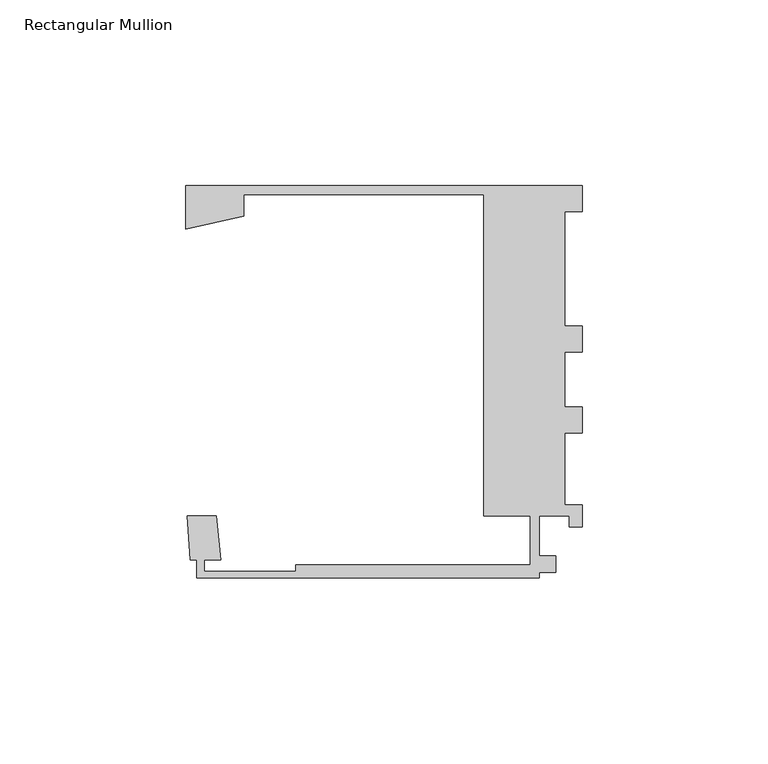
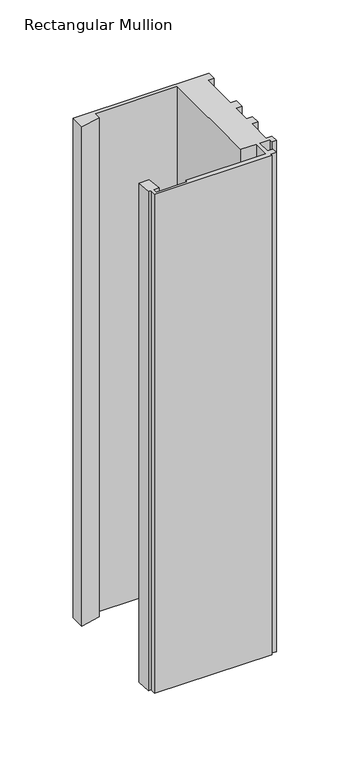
"""IFC4 building model written with IfcOpenShell, lengths in millimetres: member geometry, Rectangular Mullion : Danpal_Airpt_End-Mullion_B1."""

import ifcopenshell
import ifcopenshell.guid

model = None  # the IFC model being written
_history = None  # IfcOwnerHistory: only IFC2X3 demands one
_inside = {}  # id of a spatial element -> (the spatial element, [elements in it])
_under = {}  # id of a project, library or spatial element -> (it, [spatial elements below it])
_declared = {}  # id of a project -> (the project, [libraries it declares])
_typed = {}  # id of a type object -> (the type object, [elements of that type])
_made_of = {}  # id of a material, layer set ... -> (it, [elements and type objects made of it])


def new_model(schema):
    """Start an empty IFC model of exactly this schema.

    Asked for "IFC4X3", IfcOpenShell would pick the latest addendum, in which some entities
    have other attributes; the version numbers below select the first issue.
    IFC2X3 requires an IfcOwnerHistory on every rooted entity: one is made here for all.
    """
    global model, _history
    if schema == "IFC4X3":
        model = ifcopenshell.file(schema_version=(4, 3, 0, 0))
    else:
        model = ifcopenshell.file(schema=schema)
    _inside.clear()
    _under.clear()
    _declared.clear()
    _typed.clear()
    _made_of.clear()
    _history = None
    if model.schema == "IFC2X3":
        org = make("IfcOrganization", Name="unknown")
        user = make(
            "IfcPersonAndOrganization",
            ThePerson=make("IfcPerson", FamilyName="unknown"),
            TheOrganization=org,
        )
        app = make(
            "IfcApplication",
            ApplicationDeveloper=org,
            Version="unknown",
            ApplicationFullName="unknown",
            ApplicationIdentifier="unknown",
        )
        _history = make(
            "IfcOwnerHistory",
            OwningUser=user,
            OwningApplication=app,
            ChangeAction="ADDED",
            CreationDate=0,
        )
    return model


def make(cls, **values):
    """One entity of the class cls with the attributes given. An attribute that is None is left unset."""
    return model.create_entity(
        cls, **{name: value for name, value in values.items() if value is not None}
    )


def rooted(cls, **values):
    """An entity with a GlobalId (a new one), such as an element, a storey or a relation."""
    return make(cls, GlobalId=ifcopenshell.guid.new(), OwnerHistory=_history, **values)


def si_unit(unit_type, name, prefix=None):
    """IfcSIUnit, for example si_unit("LENGTHUNIT", "METRE", prefix="MILLI")."""
    return make("IfcSIUnit", UnitType=unit_type, Prefix=prefix, Name=name)


def assignment(units):
    """IfcUnitAssignment: the units of a project."""
    return None if units is None else make("IfcUnitAssignment", Units=units)


def point(xyz):
    """IfcCartesianPoint."""
    return None if xyz is None else make("IfcCartesianPoint", Coordinates=xyz)


def direction(xyz):
    """IfcDirection."""
    return None if xyz is None else make("IfcDirection", DirectionRatios=xyz)


def frame(location, z_axis=None, x_axis=None):
    """IfcAxis2Placement3D, a coordinate frame: its origin and axes. An axis left out is left unset."""
    return make(
        "IfcAxis2Placement3D",
        Location=point(location),
        Axis=direction(z_axis),
        RefDirection=direction(x_axis),
    )


def origin():
    """The frame at (0, 0, 0) with its axes left unset."""
    return frame((0.0, 0.0, 0.0))


def place(relative_to, where):
    """IfcLocalPlacement: puts the frame where relative to a parent placement (None: the world)."""
    return make(
        "IfcLocalPlacement", PlacementRelTo=relative_to, RelativePlacement=where
    )


def context(
    kind, dimensions, precision=None, world=None, true_north=None, identifier=None
):
    """IfcGeometricRepresentationContext, for example the 3D "Model" context."""
    return make(
        "IfcGeometricRepresentationContext",
        ContextIdentifier=identifier,
        ContextType=kind,
        CoordinateSpaceDimension=dimensions,
        Precision=precision,
        WorldCoordinateSystem=world,
        TrueNorth=true_north,
    )


def project(units=None, contexts=None):
    """IfcProject with its units and contexts."""
    return rooted(
        "IfcProject",
        Name="project",
        RepresentationContexts=contexts,
        UnitsInContext=assignment(units),
    )


def spatial(cls, under=None, at=None, **own):
    """A site, building, storey or space (cls), placed at a placement, below another one or the project."""
    s = rooted(cls, ObjectPlacement=at, **own)
    if under is not None:
        _under.setdefault(under.id(), (under, []))[1].append(s)
    return s


def polyline(points):
    """IfcPolyline through the points."""
    return make("IfcPolyline", Points=[point(p) for p in points])


def outline(outer, holes=None, kind="AREA"):
    """IfcArbitraryClosedProfileDef: a profile drawn as a closed curve; with holes, ...WithVoids."""
    if holes is None:
        return make("IfcArbitraryClosedProfileDef", ProfileType=kind, OuterCurve=outer)
    return make(
        "IfcArbitraryProfileDefWithVoids",
        ProfileType=kind,
        OuterCurve=outer,
        InnerCurves=holes,
    )


def extrude(swept, where, along, depth):
    """IfcExtrudedAreaSolid: the profile swept, set in the frame where, extruded along a direction by depth."""
    return make(
        "IfcExtrudedAreaSolid",
        SweptArea=swept,
        Position=where,
        ExtrudedDirection=direction(along),
        Depth=depth,
    )


def shape(context_of_items, identifier, shape_type, items):
    """IfcShapeRepresentation: the items that make up one representation, for example the "Body"."""
    return make(
        "IfcShapeRepresentation",
        ContextOfItems=context_of_items,
        RepresentationIdentifier=identifier,
        RepresentationType=shape_type,
        Items=items,
    )


def source(mapping_origin, context_of_items, identifier, shape_type, items):
    """IfcRepresentationMap: a shape defined once, which mapped items show again and again."""
    return make(
        "IfcRepresentationMap",
        MappingOrigin=mapping_origin,
        MappedRepresentation=shape(context_of_items, identifier, shape_type, items),
    )


def transform(
    local_origin,
    x_axis=None,
    y_axis=None,
    z_axis=None,
    scale=None,
    scale2=None,
    scale3=None,
    uniform=True,
):
    """IfcCartesianTransformationOperator3D, or its non-uniform kind. x_axis, y_axis, z_axis: its Axis1, 2, 3."""
    if uniform:
        return make(
            "IfcCartesianTransformationOperator3D",
            Axis1=direction(x_axis),
            Axis2=direction(y_axis),
            LocalOrigin=point(local_origin),
            Scale=scale,
            Axis3=direction(z_axis),
        )
    return make(
        "IfcCartesianTransformationOperator3DnonUniform",
        Axis1=direction(x_axis),
        Axis2=direction(y_axis),
        LocalOrigin=point(local_origin),
        Scale=scale,
        Axis3=direction(z_axis),
        Scale2=scale2,
        Scale3=scale3,
    )


def mapped(mapping_source, mapping_target):
    """IfcMappedItem: shows the shape of a source again, moved by a transform."""
    return make(
        "IfcMappedItem", MappingSource=mapping_source, MappingTarget=mapping_target
    )


def made_of(thing, what):
    """Note that an element or type object is made of a material, layer set ...; save() writes the relation."""
    if what is not None:
        _made_of.setdefault(what.id(), (what, []))[1].append(thing)
    return thing


def element(
    cls,
    number,
    at=None,
    inside=None,
    cuts=None,
    type_object=None,
    material=None,
    context=None,
    identifier="Body",
    shape_type=None,
    held_by="IfcProductDefinitionShape",
    body=None,
    shapes=None,
    **own,
):
    """One element of the class cls, such as IfcWall. Its Tag is "e" and its number.

    at: its placement. inside: the storey or other place that contains it. cuts: it is an
    opening in that element (IfcRelVoidsElement). A single representation is given by context,
    identifier, shape_type and body (its items); several are given by shapes. held_by: the class
    of the entity that holds the representations. save() writes the other relations.
    """
    e = rooted(cls, Tag="e%d" % number, ObjectPlacement=at, **own)
    if body is not None:
        shapes = [shape(context, identifier, shape_type, body)]
    if shapes is not None:
        e.Representation = make(held_by, Representations=shapes)
    if inside is not None:
        _inside.setdefault(inside.id(), (inside, []))[1].append(e)
    if cuts is not None:
        rooted(
            "IfcRelVoidsElement", RelatingBuildingElement=cuts, RelatedOpeningElement=e
        )
    if type_object is not None:
        _typed.setdefault(type_object.id(), (type_object, []))[1].append(e)
    return made_of(e, material)


def aggregate(whole, parts):
    """IfcRelAggregates: a whole, such as a stair, and the parts it consists of."""
    return rooted("IfcRelAggregates", RelatingObject=whole, RelatedObjects=parts)


def save(model, path):
    """Write the relations noted so far, then the file.

    IfcRelAggregates (storeys below a building ...), IfcRelContainedInSpatialStructure (elements
    in a storey), IfcRelDefinesByType, IfcRelAssociatesMaterial and IfcRelDeclares: one each for
    every whole, place, type object, material and project.
    """
    for whole, parts in _under.values():
        aggregate(whole, parts)
    for where, things in _inside.values():
        rooted(
            "IfcRelContainedInSpatialStructure",
            RelatedElements=things,
            RelatingStructure=where,
        )
    for kind, things in _typed.values():
        rooted("IfcRelDefinesByType", RelatedObjects=things, RelatingType=kind)
    for what, things in _made_of.values():
        rooted("IfcRelAssociatesMaterial", RelatedObjects=things, RelatingMaterial=what)
    for by, libraries in _declared.values():
        rooted("IfcRelDeclares", RelatingContext=by, RelatedDefinitions=libraries)
    model.write(path)


def rectangular_mullion_e545cc6d(model_context):
    return source(origin(), model_context, "Body", "SweptSolid", [
        extrude(outline(polyline([(-11.6055875, -92.6094337), (-103.8999976, -92.6094337), (-103.8999976, -87.7698451), (-105.6776694, -87.7698451), (-106.4274982, -75.8596534), (-98.5693208, -75.8596534), (-97.4384397, -87.7698451), (-101.8999976, -87.7698451), (-101.8999976, -90.8094336), (-77.1531178, -90.8094336), (-77.1531178, -89.1094336), (-14.1055875, -89.1094336), (-14.1055875, -75.8596534), (-26.6209612, -75.8596534), (-26.6209612, 10.6837558), (-91.2900275, 10.6837558), (-91.2900275, 4.9090081), (-106.8892292, 1.4378016), (-106.8892292, 13.1837558), (0.0, 13.1837558), (0.0, 6.1837558), (-4.8, 6.1837558), (-4.8, -24.6595054), (0.0, -24.6595054), (0.0, -31.6595227), (-4.8, -31.6595227), (-4.8, -46.4688518), (0.0, -46.4688518), (0.0, -53.4688518), (-4.8, -53.4688518), (-4.8, -72.9077707), (0.0, -72.9077707), (0.0, -78.8594337), (-3.5072447, -78.8594337), (-3.5072447, -75.8594337), (-11.6055875, -75.8594337), (-11.6055875, -86.6049249), (-7.1518595, -86.6049249), (-7.1518595, -91.1094337), (-11.6055875, -91.1094337), (-11.6055875, -92.6094337)])), frame((0.0, 0.0, -415.2700979), z_axis=(0.0, 0.0, 1.0), x_axis=(1.0, 0.0, 0.0)), (0.0, 0.0, 1.0), 415.2700979),
    ])


if __name__ == "__main__":
    model = new_model("IFC4")
    model_context = context("Model", 3, world=origin())
    ifc_project = project(units=[si_unit("LENGTHUNIT", "METRE", prefix="MILLI")], contexts=[model_context])
    site = spatial("IfcSite", under=ifc_project)
    building = spatial("IfcBuilding", under=site)
    placement = place(None, origin())
    rectangular_mullion_shape = rectangular_mullion_e545cc6d(model_context)
    element("IfcMember", 1, ObjectType="Rectangular Mullion : Danpal_Airpt_End-Mullion_B1", at=placement, inside=building, context=model_context, shape_type="MappedRepresentation", body=[
        mapped(rectangular_mullion_shape, transform((0.0, 0.0, 0.0), x_axis=(1.0, 0.0, 0.0), y_axis=(0.0, 1.0, 0.0), z_axis=(0.0, 0.0, 1.0))),
    ])
    save(model, "model.ifc")
